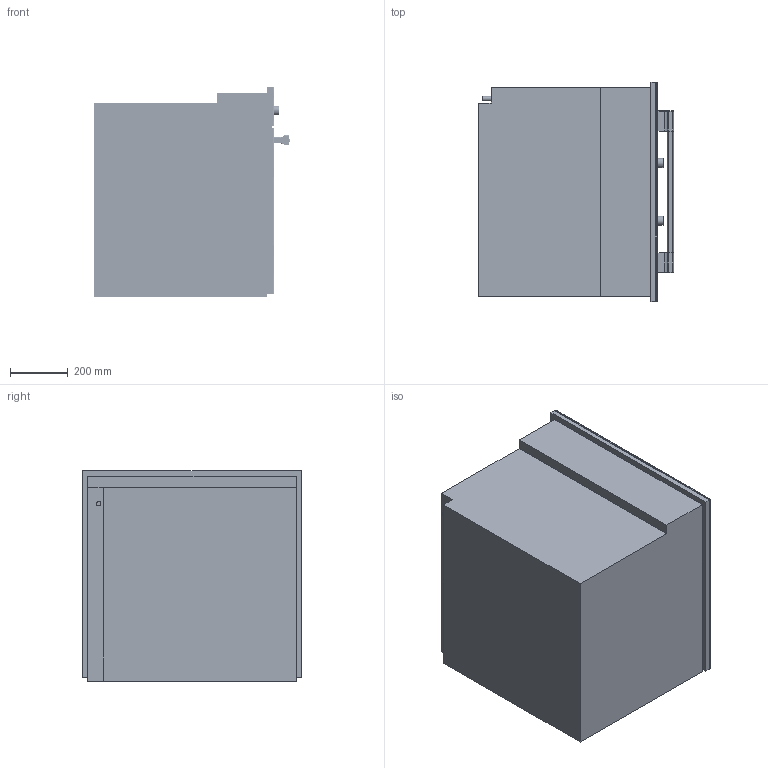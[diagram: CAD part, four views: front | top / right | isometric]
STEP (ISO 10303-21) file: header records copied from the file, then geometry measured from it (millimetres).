
FILE_DESCRIPTION(/* description */ (''),/* implementation_level */ '2;1');
FILE_NAME(/* name */ 'H6180BP_CLST',/* time_stamp */ '2013-10-25T11:11:39+02:00',/* author */ (''),/* organization */ (''),/* preprocessor_version */ 'ST-DEVELOPER v10',/* originating_system */ '',/* authorisation */ '');
FILE_SCHEMA (('AUTOMOTIVE_DESIGN_CC2'));
Length unit declared in the file: millimetre
Products named in the file (1): 1
Bounding box: 675.53 x 757 x 727 mm (x, y, z)
Volume: 177529835.2 mm3; surface area: 6555122.7 mm2
Topology: 47 solids, 48 shells, 292 faces, 541 edges, 338 vertices
Faces by surface type: bspline 292
Entity records: 92178 total; most frequent: CARTESIAN_POINT 88333, ORIENTED_EDGE 1062, EDGE_CURVE 533, VERTEX_POINT 338, B_SPLINE_CURVE_WITH_KNOTS 329, EDGE_LOOP 296, ADVANCED_FACE 292, FACE_OUTER_BOUND 292
